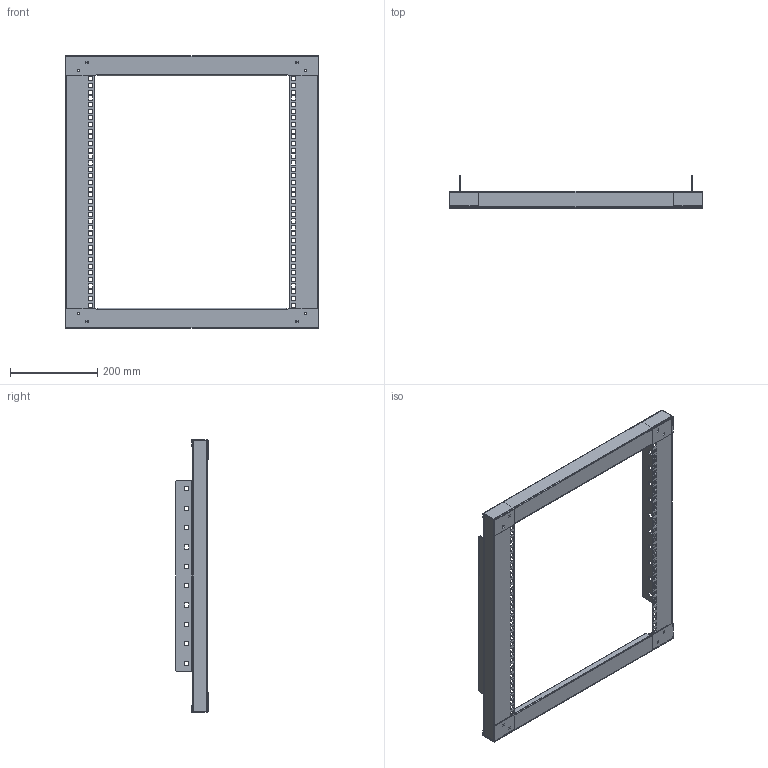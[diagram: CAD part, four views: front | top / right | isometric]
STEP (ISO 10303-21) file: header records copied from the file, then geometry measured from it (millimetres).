
FILE_DESCRIPTION (( 'STEP AP203' ), '1' );
FILE_NAME ('CorniceH4_rev1.STEP', '2021-12-01T09:23:37', ( '' ), ( '' ), 'SwSTEP 2.0', 'SolidWorks 2020', '' );
FILE_SCHEMA (( 'CONFIG_CONTROL_DESIGN' ));
Length unit declared in the file: millimetre
Products named in the file (3): Profilato_oriz_chiusura_H2_H4_H5_rev1; CorniceH4_rev1; MontanteH4rack_rev1
Assembly tree (4 placements, depth 2):
  CorniceH4_rev1
    MontanteH4rack_rev1  x2
    Profilato_oriz_chiusura_H2_H4_H5_rev1  x2
Bounding box: 580 x 73.85 x 626.6 mm (x, y, z)
Volume: 486276 mm3; surface area: 617731.5 mm2
Topology: 4 solids, 4 shells, 612 faces, 1764 edges, 1160 vertices
Faces by surface type: plane 580, cylinder 32
Entity records: 10419 total; most frequent: CARTESIAN_POINT 1775, ORIENTED_EDGE 1764, DIRECTION 1540, EDGE_CURVE 882, VECTOR 850, LINE 850, VERTEX_POINT 580, EDGE_LOOP 418
